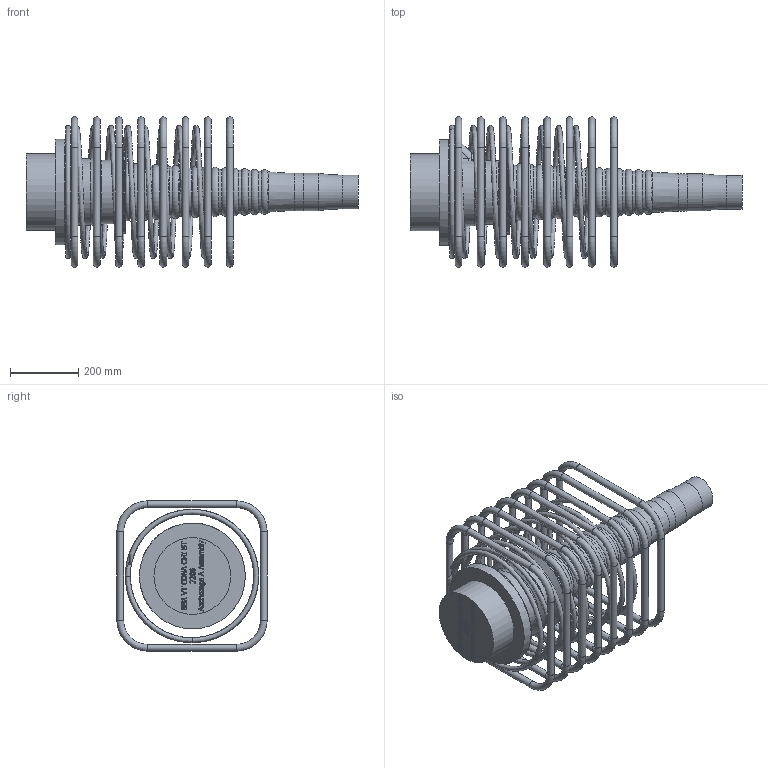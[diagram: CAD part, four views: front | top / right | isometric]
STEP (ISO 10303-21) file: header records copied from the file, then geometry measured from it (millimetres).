
FILE_DESCRIPTION(/* description */ (''),/* implementation_level */ '2;1');
FILE_NAME(/* name */ 'BBR VT CONA CMI BT 2206_Anchorage A Assembly_CS-34,28.stp',/* time_stamp */ '2025-05-14T13:28:46+02:00',/* author */ ('tk'),/* organization */ (''),/* preprocessor_version */ 'ST-DEVELOPER v20',/* originating_system */ 'Autodesk Inventor 2024',/* authorisation */ '');
FILE_SCHEMA (('AUTOMOTIVE_DESIGN { 1 0 10303 214 3 1 1 }'));
Length unit declared in the file: millimetre
Products named in the file (1): BBR VT CONA CMI BT 2206_Anchorage A Assembly_CS-34,28
Bounding box: 972.23 x 440 x 440 mm (x, y, z)
Volume: 26152727.3 mm3; surface area: 1933006.1 mm2
Topology: 10 solids, 10 shells, 781 faces, 2112 edges, 1390 vertices
Faces by surface type: plane 319, bspline 305, torus 89, cylinder 47, cone 19, sphere 2
Full cylindrical faces by diameter (mm): 20 x32, 99 x1, 109 x1, 187 x1, 225 x1, 243.942 x1, 310 x1
Entity records: 31312 total; most frequent: CARTESIAN_POINT 12547, ORIENTED_EDGE 4220, DIRECTION 2833, EDGE_CURVE 2110, VERTEX_POINT 1390, LINE 1123, VECTOR 1123, AXIS2_PLACEMENT_3D 855
